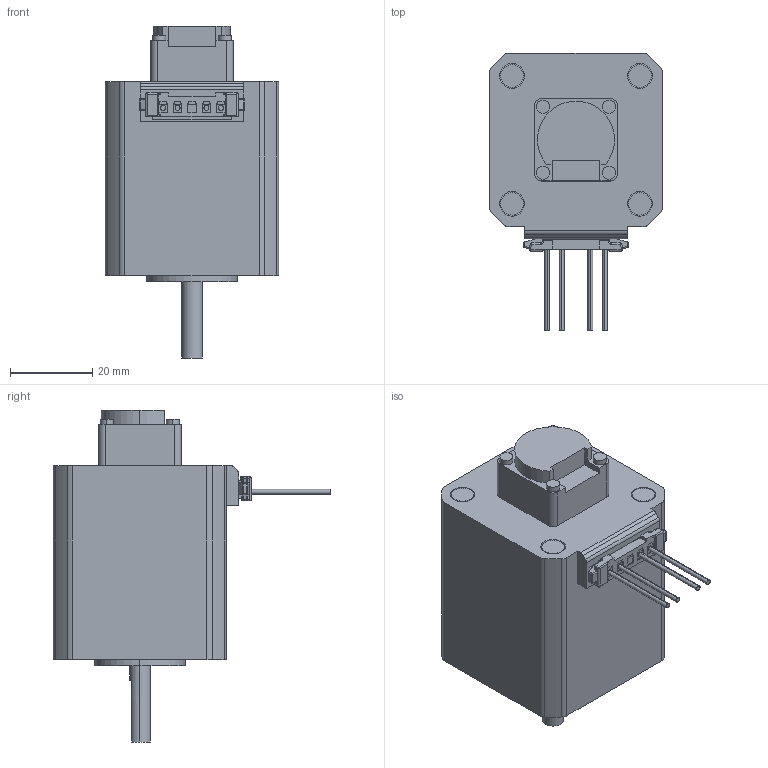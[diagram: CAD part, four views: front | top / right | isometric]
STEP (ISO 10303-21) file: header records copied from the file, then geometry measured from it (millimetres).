
FILE_DESCRIPTION (( 'STEP AP203' ), '1' );
FILE_NAME ('B1323.step', '2022-10-28T11:13:11', ( '' ), ( '' ), 'SwSTEP 2.0', 'SolidWorks 2020', '' );
FILE_SCHEMA (( 'CONFIG_CONTROL_DESIGN' ));
Length unit declared in the file: millimetre
Products named in the file (1): B1323
Bounding box: 42 x 67.3 x 80.5 mm (x, y, z)
Volume: 87924.9 mm3; surface area: 14401.4 mm2
Topology: 2 solids, 12 shells, 474 faces, 1180 edges, 758 vertices
Faces by surface type: plane 330, cylinder 120, sphere 12, bspline 8, torus 4
Entity records: 13953 total; most frequent: CARTESIAN_POINT 2625, ORIENTED_EDGE 2340, DIRECTION 2278, EDGE_CURVE 1170, LINE 900, VECTOR 900, VERTEX_POINT 756, AXIS2_PLACEMENT_3D 689
